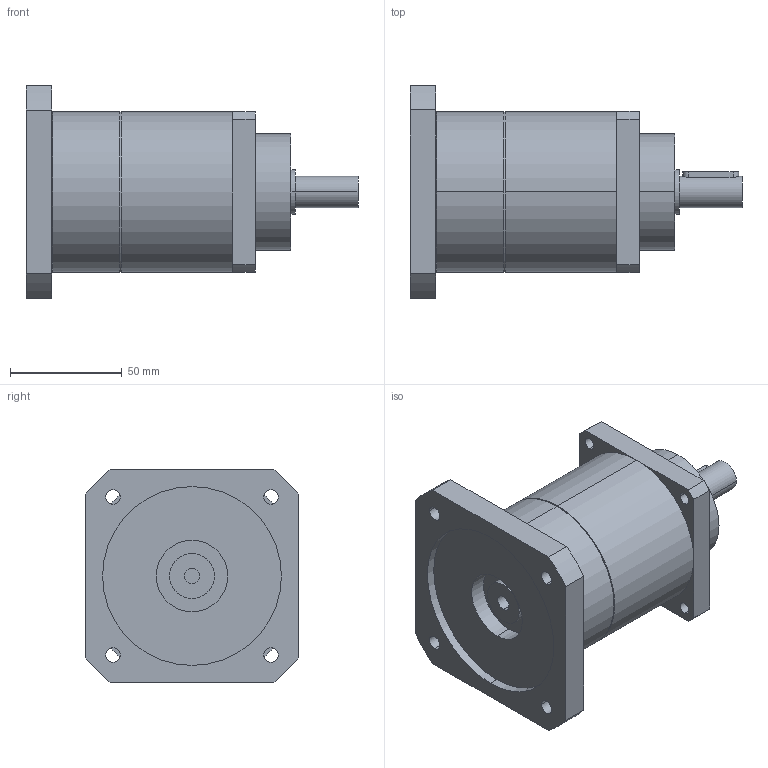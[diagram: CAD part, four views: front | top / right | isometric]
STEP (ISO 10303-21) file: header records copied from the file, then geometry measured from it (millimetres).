
FILE_DESCRIPTION(('CoCreate Modeling STEP Export'),'2;1');
FILE_NAME('GPT75_ig-9-12-16-20-25-28-35-40-50-70-100_14_B5T_7_P07.stp','2014-08-27T13:40:45',(''),(''),'CoCreate Modeling STEP processor for AP214 (Solid Model)','CoCreate Modeling 16.00C 25-Feb-2009 (C) Parametric Technology GmbH','');
FILE_SCHEMA(('AUTOMOTIVE_DESIGN { 1 0 10303 214 1 1 1 1 }'));
Length unit declared in the file: millimetre
Products named in the file (2): GPT75_ig-9-12-16-20-25-28-35-40-50-70-100_14_B5T_7_P07
Assembly tree (1 placements, depth 2):
  GPT75_ig-9-12-16-20-25-28-35-40-50-70-100_14_B5T_7_P07
    GPT75_ig-9-12-16-20-25-28-35-40-50-70-100_14_B5T_7_P07
Bounding box: 148.5 x 95 x 95 mm (x, y, z)
Volume: 492846.2 mm3; surface area: 53461.6 mm2
Topology: 1 solids, 1 shells, 77 faces, 190 edges, 125 vertices
Faces by surface type: cylinder 46, plane 27, cone 4
Entity records: 2464 total; most frequent: CARTESIAN_POINT 715, ORIENTED_EDGE 380, DIRECTION 320, EDGE_CURVE 190, VERTEX_POINT 125, AXIS2_PLACEMENT_3D 118, EDGE_LOOP 103, VECTOR 84
